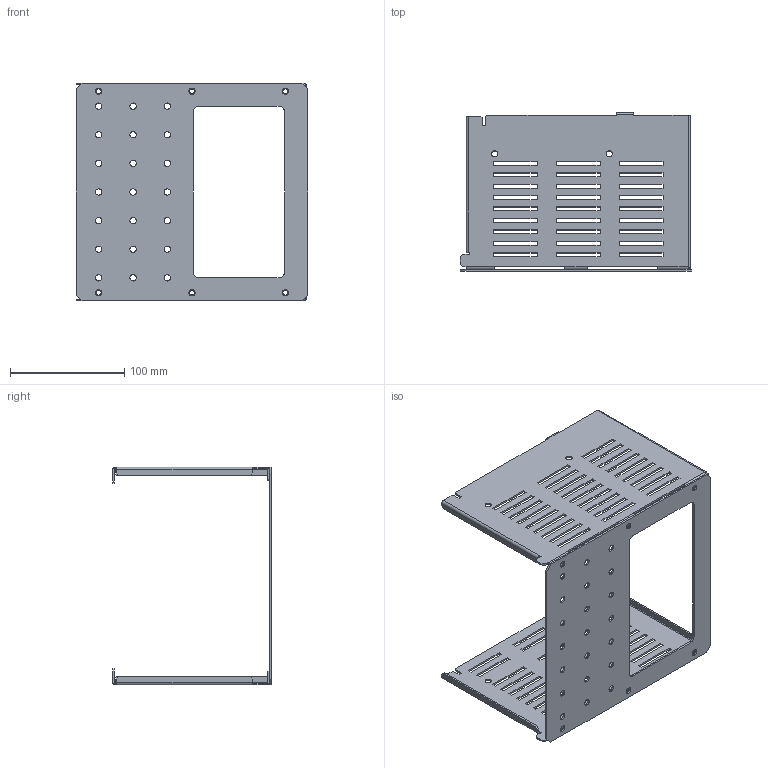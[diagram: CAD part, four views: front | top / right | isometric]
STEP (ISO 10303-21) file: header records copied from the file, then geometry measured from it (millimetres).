
FILE_DESCRIPTION(('CAx-IF Rec.Pracs.---Model Styling and Organization---1.2---2011-12-15','CAx-IF Rec.Pracs.---Geometric and Assembly Validation Properties---4.1---2014-06-16','CAx-IF Rec.Pracs.---PMI Polyline Presentation---2.0---2013-05-24'),'2;1');
FILE_NAME('R5M2W4MRT3C.stp','2021-05-05T13:05:50+03:00',(''),(''),'STEP Interface 4.4 by CT CoreTechnologie','3D_Evolution4.4 by CT CoreTechnologie','');
FILE_SCHEMA(('AUTOMOTIVE_DESIGN { 1 0 10303 214 1 1 1 1 }'));
Length unit declared in the file: millimetre
Products named in the file (4): R5M2W4MRT3C; RB.1468.00.00.0_-02; RB.1465.00.00.0_-01; RB.1465.00.00.0_-00
Assembly tree (3 placements, depth 2):
  R5M2W4MRT3C
    RB.1468.00.00.0_-02
    RB.1465.00.00.0_-01
    RB.1465.00.00.0_-00
Bounding box: 202 x 138.5 x 190 mm (x, y, z)
Surface area: 160526.2 mm2 (no closed solid volume)
Topology: 0 solids, 3 shells, 482 faces, 1411 edges, 935 vertices
Faces by surface type: plane 372, cylinder 106, bspline 4
Entity records: 16512 total; most frequent: CARTESIAN_POINT 2978, ORIENTED_EDGE 2822, DIRECTION 2577, EDGE_CURVE 1411, VECTOR 1197, LINE 1197, VERTEX_POINT 935, AXIS2_PLACEMENT_3D 690
